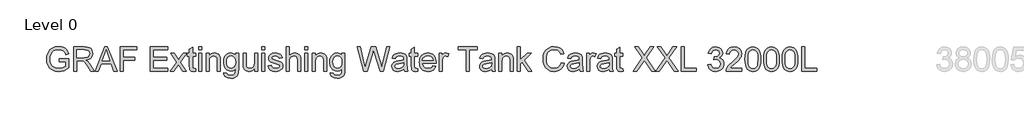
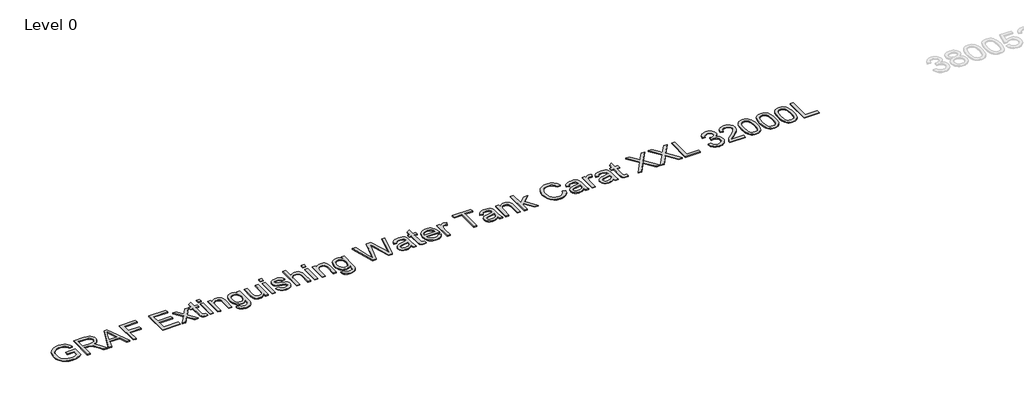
# One storey, part 12 of 37: 1 proxy.
"""IFC4 building model written with IfcOpenShell, lengths in millimetres."""

from ifc_helpers import new_model, si_unit, origin, origin_with_axes, place, context, project, spatial, polyline, outline, extrude, element, save

model = new_model("IFC4")

# Units and contexts
model_context = context("Model", 3, world=origin())
ifc_project = project(units=[si_unit("LENGTHUNIT", "METRE", prefix="MILLI")], contexts=[model_context])

# Site, building, storey
site = spatial("IfcSite", under=ifc_project)
building = spatial("IfcBuilding", under=site)
storey = spatial("IfcBuildingStorey", under=building, Name="Level 0", Elevation=0.0)

# Proxy
placement = place(None, origin())
element("IfcBuildingElementProxy", 1, Name="300mm Arial", ObjectType="300mm Arial", at=placement, inside=storey, context=model_context, shape_type="SweptSolid", body=[
    extrude(outline(polyline([(-17240.9940387, -13583.2545597), (-17240.9940387, -13545.5834434), (-17118.5629107, -13545.5834434), (-17118.5629107, -13658.2289103), (-17148.3153671, -13678.9222726), (-17179.0059225, -13693.7663111), (-17210.5610007, -13702.7058436), (-17242.9070251, -13705.6856877), (-17285.1674693, -13700.949207), (-17323.3628175, -13686.739765), (-17355.0926395, -13663.5540022), (-17377.9565055, -13631.8885595), (-17391.7796715, -13593.9047435), (-17396.3873935, -13551.7638609), (-17391.7980656, -13509.3194757), (-17378.0300819, -13469.8365406), (-17355.6536596, -13436.717964), (-17325.2390156, -13413.3666543), (-17288.1932987, -13399.5158972), (-17245.9236575, -13394.8989782), (-17214.8928112, -13397.5753197), (-17186.9889618, -13405.6043443), (-17163.4904994, -13418.4066377), (-17145.6758138, -13435.4027859), (-17132.4964413, -13457.4113262), (-17122.9039183, -13485.2507962), (-17157.6319786, -13495.0364573), (-17165.3850917, -13475.1800266), (-17174.8120678, -13460.1980323), (-17187.2832674, -13448.9040551), (-17204.169051, -13440.1116754), (-17224.3013932, -13434.4554897), (-17246.5122687, -13432.5700945), (-17272.5123287, -13434.6026425), (-17294.7415982, -13440.7002866), (-17313.1173039, -13450.0996716), (-17327.5566722, -13462.0374423), (-17346.9440533, -13491.0633317), (-17355.7732212, -13519.50061), (-17358.7162772, -13550.2187566), (-17355.175413, -13586.2436009), (-17344.5528204, -13615.8856927), (-17327.1703961, -13638.9334997), (-17303.3500369, -13655.1754898), (-17275.4737787, -13664.804801), (-17245.9236575, -13668.0145714), (-17219.831627, -13665.5957473), (-17194.3833899, -13658.3392749), (-17172.2828791, -13648.3420817), (-17156.234027, -13637.701095), (-17156.234027, -13583.2545597), (-17240.9940387, -13583.2545597)])), origin_with_axes(), (0.0, 0.0, 1.0), 10.0),
    extrude(outline(polyline([(-17057.3473467, -13700.9767982), (-17057.3473467, -13399.6078677), (-16927.4850024, -13399.6078677), (-16892.5821982, -13401.6404158), (-16867.1891434, -13407.7380598), (-16848.6294968, -13418.9952489), (-16834.2269167, -13436.5064318), (-16824.9838815, -13458.2206666), (-16821.9028698, -13482.087011), (-16827.0072325, -13511.7750881), (-16842.3203206, -13536.3863935), (-16853.9200997, -13546.4157764), (-16868.3019865, -13554.4310054), (-16905.4120827, -13564.4190016), (-16884.0013506, -13580.532233), (-16853.467145, -13619.3069952), (-16803.2144645, -13700.9767982), (-16846.9924219, -13700.9767982), (-16886.2086426, -13638.5104354), (-16914.5355562, -13597.1604991), (-16934.4379722, -13577.6259652), (-16952.3538253, -13570.4522663), (-16974.2060158, -13569.1278911), (-17019.6762304, -13569.1278911), (-17019.6762304, -13700.9767982), (-17057.3473467, -13700.9767982)]), holes=[polyline([(-17019.6762304, -13531.4567748), (-16935.3576771, -13531.4567748), (-16911.1418448, -13530.1232026), (-16892.3522719, -13526.1224859), (-16878.2072092, -13519.1879103), (-16867.9249074, -13509.0527613), (-16861.6617165, -13496.7930938), (-16859.5739861, -13483.4849626), (-16863.5563087, -13465.109257), (-16875.5032765, -13450.3020067), (-16896.058683, -13440.5347397), (-16925.8663217, -13437.278984), (-17019.6762304, -13437.278984), (-17019.6762304, -13531.4567748)])]), origin_with_axes(), (0.0, 0.0, 1.0), 10.0),
    extrude(outline(polyline([(-16791.0743586, -13700.9767982), (-16670.7769462, -13399.6078677), (-16638.6976362, -13399.6078677), (-16518.4002238, -13700.9767982), (-16558.2050557, -13700.9767982), (-16592.7123868, -13606.7990074), (-16716.835772, -13606.7990074), (-16751.2695268, -13700.9767982), (-16791.0743586, -13700.9767982)]), holes=[polyline([(-16703.003409, -13569.1278911), (-16606.4711735, -13569.1278911), (-16633.6208647, -13495.0364573), (-16654.7372912, -13437.278984), (-16673.499273, -13488.5617342), (-16703.003409, -13569.1278911)])]), origin_with_axes(), (0.0, 0.0, 1.0), 10.0),
    extrude(outline(polyline([(-16478.1539335, -13700.9767982), (-16478.1539335, -13399.6078677), (-16275.6716834, -13399.6078677), (-16275.6716834, -13437.278984), (-16440.4828172, -13437.278984), (-16440.4828172, -13526.7478853), (-16299.2161311, -13526.7478853), (-16299.2161311, -13564.4190016), (-16440.4828172, -13564.4190016), (-16440.4828172, -13700.9767982), (-16478.1539335, -13700.9767982)])), origin_with_axes(), (0.0, 0.0, 1.0), 10.0),
    extrude(outline(polyline([(-16106.15166, -13700.9767982), (-16106.15166, -13399.6078677), (-15889.5427413, -13399.6078677), (-15889.5427413, -13437.278984), (-16068.4805437, -13437.278984), (-16068.4805437, -13526.7478853), (-15898.9605203, -13526.7478853), (-15898.9605203, -13564.4190016), (-16068.4805437, -13564.4190016), (-16068.4805437, -13663.3056819), (-15884.8338517, -13663.3056819), (-15884.8338517, -13700.9767982), (-16106.15166, -13700.9767982)])), origin_with_axes(), (0.0, 0.0, 1.0), 10.0),
    extrude(outline(polyline([(-15856.5805145, -13700.9767982), (-15776.0879339, -13589.7292828), (-15851.8716249, -13479.6589899), (-15806.5485631, -13479.6589899), (-15769.9810928, -13532.6339972), (-15752.9113682, -13557.6499729), (-15738.122512, -13537.1957339), (-15696.4782702, -13479.6589899), (-15651.1552084, -13479.6589899), (-15730.7648721, -13589.7292828), (-15654.0982643, -13700.9767982), (-15699.4213261, -13700.9767982), (-15745.5537283, -13634.0958515), (-15754.0150142, -13621.8821692), (-15811.2574527, -13700.9767982), (-15856.5805145, -13700.9767982)])), origin_with_axes(), (0.0, 0.0, 1.0), 10.0),
    extrude(outline(polyline([(-15541.0849154, -13669.5596758), (-15536.3760259, -13702.0804442), (-15564.5557867, -13705.6856877), (-15582.6371868, -13704.1221892), (-15596.1200619, -13699.4316938), (-15605.6482056, -13692.2028126), (-15611.8654113, -13683.0241568), (-15615.2867139, -13667.2604133), (-15616.427148, -13640.276269), (-15616.427148, -13517.3301062), (-15644.6804853, -13517.3301062), (-15644.6804853, -13479.6589899), (-15616.427148, -13479.6589899), (-15616.427148, -13425.8746422), (-15578.7560317, -13403.7281461), (-15578.7560317, -13479.6589899), (-15541.0849154, -13479.6589899), (-15541.0849154, -13517.3301062), (-15578.7560317, -13517.3301062), (-15578.7560317, -13639.172623), (-15576.769469, -13658.5967923), (-15570.331534, -13665.4761856), (-15557.4924524, -13668.0145714), (-15541.0849154, -13669.5596758)])), origin_with_axes(), (0.0, 0.0, 1.0), 10.0),
    extrude(outline(polyline([(-15503.4137991, -13437.278984), (-15503.4137991, -13399.6078677), (-15465.7426828, -13399.6078677), (-15465.7426828, -13437.278984), (-15503.4137991, -13437.278984)])), origin_with_axes(), (0.0, 0.0, 1.0), 10.0),
    extrude(outline(polyline([(-15503.4137991, -13700.9767982), (-15503.4137991, -13479.6589899), (-15465.7426828, -13479.6589899), (-15465.7426828, -13700.9767982), (-15503.4137991, -13700.9767982)])), origin_with_axes(), (0.0, 0.0, 1.0), 10.0),
    extrude(outline(polyline([(-15409.2360084, -13700.9767982), (-15409.2360084, -13479.6589899), (-15371.564892, -13479.6589899), (-15371.564892, -13510.5610775), (-15358.4774901, -13494.981275), (-15342.7597318, -13483.8528446), (-15324.4116173, -13477.1757864), (-15303.4331465, -13474.9501003), (-15284.8643028, -13476.7435251), (-15267.8589576, -13482.1237992), (-15253.6771067, -13490.4195382), (-15243.5787459, -13500.9593574), (-15232.2847687, -13528.6608716), (-15230.2982059, -13565.0811892), (-15230.2982059, -13700.9767982), (-15267.9693222, -13700.9767982), (-15267.9693222, -13570.1579607), (-15272.3103297, -13536.8278519), (-15278.3160033, -13526.9042351), (-15287.6510089, -13519.2063044), (-15299.6163708, -13514.2674886), (-15313.5131132, -13512.6212166), (-15335.5768359, -13516.3184307), (-15354.3848029, -13527.4100729), (-15361.9010919, -13536.4645685), (-15367.2698698, -13548.8391991), (-15371.564892, -13583.5488653), (-15371.564892, -13700.9767982), (-15409.2360084, -13700.9767982)])), origin_with_axes(), (0.0, 0.0, 1.0), 10.0),
    extrude(outline(polyline([(-15187.9182001, -13719.8123563), (-15150.2470837, -13724.5212459), (-15146.0900172, -13736.2934697), (-15138.0334015, -13744.3868736), (-15122.1960816, -13750.6776557), (-15101.4659312, -13752.7745831), (-15079.3562233, -13750.4017442), (-15062.9118981, -13743.2832276), (-15051.5075562, -13731.8788858), (-15044.5177983, -13716.6485712), (-15041.9426244, -13672.7234609), (-15054.4782034, -13685.084296), (-15068.4669162, -13693.9134639), (-15083.908763, -13699.2109646), (-15100.8037436, -13700.9767982), (-15121.4580184, -13698.9212575), (-15139.6428852, -13692.7546356), (-15155.3583442, -13682.4769323), (-15168.6043953, -13668.0881478), (-15179.1143241, -13650.8252852), (-15186.621416, -13631.9253477), (-15191.1256712, -13611.3883353), (-15192.6270896, -13589.214248), (-15189.932354, -13558.7996041), (-15181.8481471, -13530.8313754), (-15168.6595776, -13507.1305779), (-15150.6517539, -13489.5182274), (-15128.4408785, -13478.5921321), (-15102.6431536, -13474.9501003), (-15085.0262045, -13477.0102395), (-15069.0371333, -13483.190657), (-15054.6759399, -13493.4913529), (-15041.9426244, -13507.9123271), (-15041.9426244, -13479.6589899), (-15004.2715081, -13479.6589899), (-15004.2715081, -13670.7368982), (-15006.846682, -13714.8551464), (-15014.5722039, -13743.908627), (-15027.8803351, -13763.1764465), (-15047.2033369, -13777.9377116), (-15072.118145, -13787.3187024), (-15102.2016952, -13790.4456994), (-15137.2516523, -13786.0403125), (-15164.851999, -13772.8241518), (-15175.2469646, -13762.9028343), (-15182.55632, -13750.7604292), (-15186.7800651, -13736.3969365), (-15187.9182001, -13719.8123563)]), holes=[polyline([(-15154.9559733, -13586.6390741), (-15150.9368625, -13621.1923905), (-15138.8795301, -13644.9483703), (-15120.7521448, -13658.716354), (-15098.5228752, -13663.3056819), (-15076.4591526, -13658.7439451), (-15058.2397968, -13645.0587349), (-15046.0169175, -13621.6062577), (-15041.9426244, -13587.7427201), (-15046.1364791, -13555.0839959), (-15058.7180433, -13531.5671394), (-15077.2041136, -13517.3576973), (-15099.1114864, -13512.6212166), (-15120.6233861, -13517.2841209), (-15138.6588009, -13531.2728338), (-15150.8816802, -13554.4402024), (-15154.9559733, -13586.6390741)])]), origin_with_axes(), (0.0, 0.0, 1.0), 10.0),
    extrude(outline(polyline([(-14806.4981475, -13700.9767982), (-14806.4981475, -13662.9377999), (-14820.1281754, -13681.6400008), (-14836.0022835, -13694.9987158), (-14854.1204717, -13703.0139447), (-14874.4827402, -13705.6856877), (-14892.8308547, -13703.8094895), (-14909.9097763, -13698.180895), (-14924.23878, -13689.7196091), (-14934.3371408, -13679.3453369), (-14945.5575416, -13651.6070344), (-14947.7648336, -13616.5846685), (-14947.7648336, -13479.6589899), (-14910.0937173, -13479.6589899), (-14910.0937173, -13598.8527563), (-14907.8128489, -13637.2596366), (-14902.3222101, -13650.0711271), (-14892.9136281, -13659.8108029), (-14880.2125022, -13665.9636293), (-14864.8442319, -13668.0145714), (-14848.5930448, -13665.917644), (-14833.3903213, -13659.6268619), (-14820.8547423, -13649.7216392), (-14812.6049886, -13636.78139), (-14808.0248577, -13619.0586749), (-14806.4981475, -13594.8060544), (-14806.4981475, -13479.6589899), (-14768.8270311, -13479.6589899), (-14768.8270311, -13700.9767982), (-14806.4981475, -13700.9767982)])), origin_with_axes(), (0.0, 0.0, 1.0), 10.0),
    extrude(outline(polyline([(-14717.0292462, -13437.278984), (-14717.0292462, -13399.6078677), (-14679.3581299, -13399.6078677), (-14679.3581299, -13437.278984), (-14717.0292462, -13437.278984)])), origin_with_axes(), (0.0, 0.0, 1.0), 10.0),
    extrude(outline(polyline([(-14717.0292462, -13700.9767982), (-14717.0292462, -13479.6589899), (-14679.3581299, -13479.6589899), (-14679.3581299, -13700.9767982), (-14717.0292462, -13700.9767982)])), origin_with_axes(), (0.0, 0.0, 1.0), 10.0),
    extrude(outline(polyline([(-14636.9781241, -13635.0523446), (-14599.3070078, -13630.3434551), (-14593.3657135, -13646.4566865), (-14581.8694012, -13658.3024867), (-14564.7444943, -13665.5865502), (-14541.9174165, -13668.0145714), (-14519.3662502, -13665.7888853), (-14503.5105362, -13659.1118271), (-14494.1295453, -13649.4365307), (-14491.0025484, -13638.2161298), (-14494.1479394, -13628.6144097), (-14503.5841126, -13621.293558), (-14542.3588749, -13610.5514038), (-14599.0862786, -13592.1205158), (-14613.4428734, -13582.8590866), (-14623.8447368, -13570.5994191), (-14630.1631101, -13556.1232626), (-14632.2692345, -13540.2123663), (-14630.5769774, -13525.6166481), (-14625.5002058, -13512.1429701), (-14617.4987724, -13500.324761), (-14607.0325297, -13490.6954497), (-14583.0834118, -13479.5486253), (-14550.673008, -13474.9501003), (-14526.153673, -13476.7987074), (-14504.8349114, -13482.3445284), (-14487.6916104, -13491.0449376), (-14475.6986574, -13502.357309), (-14467.7524063, -13517.118574), (-14462.7492112, -13536.1656643), (-14500.4203275, -13540.8745539), (-14505.1752023, -13529.0195566), (-14514.5837843, -13520.0892211), (-14528.738044, -13514.4882178), (-14547.729952, -13512.6212166), (-14569.3614134, -13514.4054443), (-14583.7823876, -13519.7581274), (-14591.8941856, -13527.4836493), (-14594.5981182, -13536.3863935), (-14590.1099579, -13547.349277), (-14576.0568657, -13555.6634101), (-14543.6096737, -13563.6832376), (-14488.3170098, -13581.4151497), (-14473.7120946, -13589.8948297), (-14462.6388466, -13601.5015067), (-14455.6582857, -13616.2719688), (-14453.3314321, -13634.2430043), (-14456.0629559, -13652.821045), (-14464.2575273, -13670.2954398), (-14477.6024467, -13685.2958281), (-14495.7850143, -13696.4518496), (-14517.7475694, -13703.3772282), (-14542.4324513, -13705.6856877), (-14580.4162673, -13701.2343156), (-14608.1361757, -13687.8801991), (-14626.64064, -13665.7704912), (-14636.9781241, -13635.0523446)])), origin_with_axes(), (0.0, 0.0, 1.0), 10.0),
    extrude(outline(polyline([(-14410.9514262, -13700.9767982), (-14410.9514262, -13399.6078677), (-14373.2803099, -13399.6078677), (-14373.2803099, -13510.4139247), (-14359.4433484, -13494.8985015), (-14343.9049326, -13483.8160564), (-14326.6650626, -13477.1665894), (-14307.7237384, -13474.9501003), (-14284.970237, -13477.3689245), (-14265.4173089, -13484.6253968), (-14250.0214474, -13496.1493003), (-14239.7391457, -13511.3704179), (-14233.9450043, -13532.2845093), (-14232.0136238, -13560.8873344), (-14232.0136238, -13700.9767982), (-14269.6847401, -13700.9767982), (-14269.6847401, -13564.7868836), (-14272.6829784, -13541.2056477), (-14281.6776931, -13525.0556281), (-14296.1722437, -13515.7298195), (-14315.6699895, -13512.6212166), (-14331.5900828, -13514.718144), (-14346.5352889, -13521.0089261), (-14358.914518, -13530.8865577), (-14367.1366806, -13543.7440334), (-14371.7444026, -13560.8321521), (-14373.2803099, -13583.4017125), (-14373.2803099, -13700.9767982), (-14410.9514262, -13700.9767982)])), origin_with_axes(), (0.0, 0.0, 1.0), 10.0),
    extrude(outline(polyline([(-14180.2158389, -13437.278984), (-14180.2158389, -13399.6078677), (-14142.5447226, -13399.6078677), (-14142.5447226, -13437.278984), (-14180.2158389, -13437.278984)])), origin_with_axes(), (0.0, 0.0, 1.0), 10.0),
    extrude(outline(polyline([(-14180.2158389, -13700.9767982), (-14180.2158389, -13479.6589899), (-14142.5447226, -13479.6589899), (-14142.5447226, -13700.9767982), (-14180.2158389, -13700.9767982)])), origin_with_axes(), (0.0, 0.0, 1.0), 10.0),
    extrude(outline(polyline([(-14086.0380481, -13700.9767982), (-14086.0380481, -13479.6589899), (-14048.3669318, -13479.6589899), (-14048.3669318, -13510.5610775), (-14035.2795298, -13494.981275), (-14019.5617716, -13483.8528446), (-14001.2136571, -13477.1757864), (-13980.2351863, -13474.9501003), (-13961.6663426, -13476.7435251), (-13944.6609974, -13482.1237992), (-13930.4791464, -13490.4195382), (-13920.3807857, -13500.9593574), (-13909.0868084, -13528.6608716), (-13907.1002456, -13565.0811892), (-13907.1002456, -13700.9767982), (-13944.771362, -13700.9767982), (-13944.771362, -13570.1579607), (-13949.1123695, -13536.8278519), (-13955.1180431, -13526.9042351), (-13964.4530487, -13519.2063044), (-13976.4184106, -13514.2674886), (-13990.315153, -13512.6212166), (-14012.3788756, -13516.3184307), (-14031.1868426, -13527.4100729), (-14038.7031316, -13536.4645685), (-14044.0719095, -13548.8391991), (-14048.3669318, -13583.5488653), (-14048.3669318, -13700.9767982), (-14086.0380481, -13700.9767982)])), origin_with_axes(), (0.0, 0.0, 1.0), 10.0),
    extrude(outline(polyline([(-13864.7202398, -13719.8123563), (-13827.0491235, -13724.5212459), (-13822.8920569, -13736.2934697), (-13814.8354413, -13744.3868736), (-13798.9981214, -13750.6776557), (-13778.2679709, -13752.7745831), (-13756.158263, -13750.4017442), (-13739.7139378, -13743.2832276), (-13728.309596, -13731.8788858), (-13721.3198381, -13716.6485712), (-13718.7446641, -13672.7234609), (-13731.2802431, -13685.084296), (-13745.268956, -13693.9134639), (-13760.7108027, -13699.2109646), (-13777.6057833, -13700.9767982), (-13798.2600581, -13698.9212575), (-13816.444925, -13692.7546356), (-13832.160384, -13682.4769323), (-13845.4064351, -13668.0881478), (-13855.9163638, -13650.8252852), (-13863.4234558, -13631.9253477), (-13867.9277109, -13611.3883353), (-13869.4291293, -13589.214248), (-13866.7343937, -13558.7996041), (-13858.6501869, -13530.8313754), (-13845.4616174, -13507.1305779), (-13827.4537937, -13489.5182274), (-13805.2429182, -13478.5921321), (-13779.4451933, -13474.9501003), (-13761.8282443, -13477.0102395), (-13745.8391731, -13483.190657), (-13731.4779797, -13493.4913529), (-13718.7446641, -13507.9123271), (-13718.7446641, -13479.6589899), (-13681.0735478, -13479.6589899), (-13681.0735478, -13670.7368982), (-13683.6487218, -13714.8551464), (-13691.3742437, -13743.908627), (-13704.6823748, -13763.1764465), (-13724.0053766, -13777.9377116), (-13748.9201848, -13787.3187024), (-13779.0037349, -13790.4456994), (-13814.053692, -13786.0403125), (-13841.6540387, -13772.8241518), (-13852.0490043, -13762.9028343), (-13859.3583597, -13750.7604292), (-13863.5821049, -13736.3969365), (-13864.7202398, -13719.8123563)]), holes=[polyline([(-13831.758013, -13586.6390741), (-13827.7389022, -13621.1923905), (-13815.6815698, -13644.9483703), (-13797.5541845, -13658.716354), (-13775.324915, -13663.3056819), (-13753.2611923, -13658.7439451), (-13735.0418365, -13645.0587349), (-13722.8189572, -13621.6062577), (-13718.7446641, -13587.7427201), (-13722.9385189, -13555.0839959), (-13735.5200831, -13531.5671394), (-13754.0061534, -13517.3576973), (-13775.9135262, -13512.6212166), (-13797.4254258, -13517.2841209), (-13815.4608406, -13531.2728338), (-13827.6837199, -13554.4402024), (-13831.758013, -13586.6390741)])]), origin_with_axes(), (0.0, 0.0, 1.0), 10.0),
    extrude(outline(polyline([(-13448.2042449, -13700.9767982), (-13530.3890826, -13399.6078677), (-13491.5407439, -13399.6078677), (-13443.8632373, -13597.6755339), (-13429.1479575, -13658.8175215), (-13413.4026081, -13604.7388682), (-13353.6585721, -13399.6078677), (-13297.6669324, -13399.6078677), (-13254.256857, -13548.3057702), (-13235.6604221, -13603.4880695), (-13221.9568178, -13658.8175215), (-13207.6829964, -13599.4413675), (-13159.5640314, -13399.6078677), (-13120.7156928, -13399.6078677), (-13202.9741069, -13700.9767982), (-13243.2203971, -13700.9767982), (-13315.472421, -13468.4753772), (-13325.5523877, -13436.0281853), (-13336.8831531, -13475.0972531), (-13402.7340303, -13700.9767982), (-13448.2042449, -13700.9767982)])), origin_with_axes(), (0.0, 0.0, 1.0), 10.0),
    extrude(outline(polyline([(-12946.4867798, -13672.7234609), (-12964.4854065, -13688.1561106), (-12983.017462, -13698.2544714), (-13002.5060107, -13703.8278836), (-13023.3741168, -13705.6856877), (-13054.8556186, -13701.2159215), (-13078.0781695, -13687.8066228), (-13092.3979762, -13667.4443543), (-13097.1712451, -13642.1156789), (-13095.3686233, -13626.4990883), (-13089.960758, -13612.3172373), (-13081.6190337, -13600.1771315), (-13071.0148352, -13590.685776), (-13044.6376962, -13578.324941), (-13012.0433514, -13572.6595583), (-12973.5261065, -13566.6998699), (-12946.707509, -13559.710112), (-12946.4867798, -13551.3224025), (-12949.0803479, -13534.5101954), (-12956.8610521, -13523.5105237), (-12974.2618705, -13515.3435434), (-12998.505294, -13512.6212166), (-13020.9460957, -13514.4330355), (-13036.6178687, -13519.868492), (-13047.3048406, -13529.9208675), (-13054.7912392, -13545.5834434), (-13092.4623555, -13540.8745539), (-13085.9232531, -13520.2731621), (-13076.1651831, -13504.0863544), (-13062.2776378, -13491.7071252), (-13043.3501092, -13482.5284694), (-13020.2011346, -13476.8446926), (-12993.6492516, -13474.9501003), (-12968.1826205, -13476.6239634), (-12947.995096, -13481.6455527), (-12932.7739785, -13489.1963306), (-12922.2065682, -13498.4577598), (-12915.1984162, -13509.9080869), (-12910.6550735, -13524.0255585), (-12908.8156635, -13556.9877853), (-12908.8156635, -13603.8559515), (-12906.9026772, -13669.3021584), (-12899.3978845, -13700.9767982), (-12937.0690008, -13700.9767982), (-12946.4867798, -13672.7234609)]), holes=[polyline([(-12946.4867798, -13597.3812283), (-13007.2608854, -13608.932723), (-13039.6712892, -13615.0395641), (-13054.3497808, -13624.972378), (-13059.5001288, -13639.4669286), (-13056.6950285, -13650.6689353), (-13048.2797279, -13659.8475911), (-13034.4381678, -13665.9728263), (-13015.3542893, -13668.0145714), (-12995.1207796, -13665.7612942), (-12977.2417146, -13659.0014625), (-12962.747164, -13649.0410575), (-12952.6671974, -13637.1860602), (-12948.1974311, -13624.972378), (-12946.707509, -13608.0498062), (-12946.4867798, -13597.3812283)])]), origin_with_axes(), (0.0, 0.0, 1.0), 10.0),
    extrude(outline(polyline([(-12776.9667565, -13669.5596758), (-12772.2578669, -13702.0804442), (-12800.4376278, -13705.6856877), (-12818.5190278, -13704.1221892), (-12832.0019029, -13699.4316938), (-12841.5300466, -13692.2028126), (-12847.7472523, -13683.0241568), (-12851.1685549, -13667.2604133), (-12852.3089891, -13640.276269), (-12852.3089891, -13517.3301062), (-12880.5623263, -13517.3301062), (-12880.5623263, -13479.6589899), (-12852.3089891, -13479.6589899), (-12852.3089891, -13425.8746422), (-12814.6378728, -13403.7281461), (-12814.6378728, -13479.6589899), (-12776.9667565, -13479.6589899), (-12776.9667565, -13517.3301062), (-12814.6378728, -13517.3301062), (-12814.6378728, -13639.172623), (-12812.65131, -13658.5967923), (-12806.2133751, -13665.4761856), (-12793.3742934, -13668.0145714), (-12776.9667565, -13669.5596758)])), origin_with_axes(), (0.0, 0.0, 1.0), 10.0),
    extrude(outline(polyline([(-12584.3437438, -13635.0523446), (-12547.4083915, -13639.7612342), (-12560.7165226, -13667.5915071), (-12581.9525108, -13688.3952339), (-12610.6381094, -13701.3630743), (-12646.2950718, -13705.6856877), (-12669.669374, -13703.8209859), (-12690.4960935, -13698.2268803), (-12708.7752301, -13688.9033709), (-12724.506784, -13675.8504579), (-12737.1573261, -13659.4314246), (-12746.1934276, -13640.0095545), (-12751.6150885, -13617.5848477), (-12753.4223088, -13592.157304), (-12751.5966944, -13565.8675369), (-12746.1198512, -13542.6955698), (-12736.9917792, -13522.6414025), (-12724.2124784, -13505.7050351), (-12708.5223113, -13492.2497512), (-12690.6616404, -13482.638834), (-12670.6304658, -13476.8722838), (-12648.4287873, -13474.9501003), (-12626.9421796, -13476.8676852), (-12607.5111124, -13482.6204399), (-12590.1355859, -13492.2083644), (-12574.8156001, -13505.6314587), (-12562.3099115, -13522.5310379), (-12553.3772768, -13542.548417), (-12548.017696, -13565.6835959), (-12546.2311691, -13591.9365748), (-12546.4518983, -13602.0901179), (-12715.7511925, -13602.0901179), (-12709.2304841, -13630.2882728), (-12694.0829429, -13651.0184232), (-12672.2215554, -13663.7655344), (-12645.5593078, -13668.0145714), (-12625.509739, -13666.0464027), (-12608.6239555, -13660.1418967), (-12594.901957, -13649.9331713), (-12584.3437438, -13635.0523446)]), holes=[polyline([(-12715.7511925, -13564.4190016), (-12583.9022854, -13564.4190016), (-12588.997451, -13544.5165856), (-12598.9854472, -13530.2795524), (-12620.9480023, -13517.0358006), (-12648.5759401, -13512.6212166), (-12673.9689949, -13516.1436868), (-12694.9658597, -13526.7110971), (-12709.5615779, -13543.1830134), (-12715.7511925, -13564.4190016)])]), origin_with_axes(), (0.0, 0.0, 1.0), 10.0),
    extrude(outline(polyline([(-12508.5600528, -13700.9767982), (-12508.5600528, -13479.6589899), (-12475.597826, -13479.6589899), (-12475.597826, -13512.4004875), (-12463.420932, -13493.4177765), (-12452.2005311, -13482.2341638), (-12440.9433421, -13476.7711162), (-12428.6560834, -13474.9501003), (-12409.8941017, -13477.8563681), (-12390.8378143, -13486.5751714), (-12403.4193786, -13520.3467385), (-12416.6631304, -13514.5525971), (-12429.9068822, -13512.6212166), (-12441.1548742, -13514.4790207), (-12451.2072497, -13520.052433), (-12459.3282448, -13528.918389), (-12464.7820954, -13540.6538247), (-12469.3622262, -13561.6966748), (-12470.8889365, -13584.6525113), (-12470.8889365, -13700.9767982), (-12508.5600528, -13700.9767982)])), origin_with_axes(), (0.0, 0.0, 1.0), 10.0),
    extrude(outline(polyline([(-12169.520006, -13700.9767982), (-12169.520006, -13437.278984), (-12268.4066863, -13437.278984), (-12268.4066863, -13399.6078677), (-12032.9622094, -13399.6078677), (-12032.9622094, -13437.278984), (-12131.8488897, -13437.278984), (-12131.8488897, -13700.9767982), (-12169.520006, -13700.9767982)])), origin_with_axes(), (0.0, 0.0, 1.0), 10.0),
    extrude(outline(polyline([(-11854.024407, -13672.7234609), (-11872.0230336, -13688.1561106), (-11890.5550891, -13698.2544714), (-11910.0436378, -13703.8278836), (-11930.911744, -13705.6856877), (-11962.3932457, -13701.2159215), (-11985.6157966, -13687.8066228), (-11999.9356033, -13667.4443543), (-12004.7088722, -13642.1156789), (-12002.9062504, -13626.4990883), (-11997.4983851, -13612.3172373), (-11989.1566608, -13600.1771315), (-11978.5524623, -13590.685776), (-11952.1753233, -13578.324941), (-11919.5809785, -13572.6595583), (-11881.0637336, -13566.6998699), (-11854.2451362, -13559.710112), (-11854.024407, -13551.3224025), (-11856.617975, -13534.5101954), (-11864.3986792, -13523.5105237), (-11881.7994976, -13515.3435434), (-11906.0429211, -13512.6212166), (-11928.4837228, -13514.4330355), (-11944.1554958, -13519.868492), (-11954.8424677, -13529.9208675), (-11962.3288663, -13545.5834434), (-11999.9999826, -13540.8745539), (-11993.4608802, -13520.2731621), (-11983.7028103, -13504.0863544), (-11969.8152649, -13491.7071252), (-11950.8877363, -13482.5284694), (-11927.7387617, -13476.8446926), (-11901.1868787, -13474.9501003), (-11875.7202476, -13476.6239634), (-11855.5327231, -13481.6455527), (-11840.3116056, -13489.1963306), (-11829.7441953, -13498.4577598), (-11822.7360433, -13509.9080869), (-11818.1927006, -13524.0255585), (-11816.3532907, -13556.9877853), (-11816.3532907, -13603.8559515), (-11814.4403043, -13669.3021584), (-11806.9355116, -13700.9767982), (-11844.6066279, -13700.9767982), (-11854.024407, -13672.7234609)]), holes=[polyline([(-11854.024407, -13597.3812283), (-11914.7985126, -13608.932723), (-11947.2089163, -13615.0395641), (-11961.8874079, -13624.972378), (-11967.0377559, -13639.4669286), (-11964.2326557, -13650.6689353), (-11955.817355, -13659.8475911), (-11941.975795, -13665.9728263), (-11922.8919165, -13668.0145714), (-11902.6584067, -13665.7612942), (-11884.7793418, -13659.0014625), (-11870.2847911, -13649.0410575), (-11860.2048245, -13637.1860602), (-11855.7350582, -13624.972378), (-11854.2451362, -13608.0498062), (-11854.024407, -13597.3812283)])]), origin_with_axes(), (0.0, 0.0, 1.0), 10.0),
    extrude(outline(polyline([(-11764.5555057, -13700.9767982), (-11764.5555057, -13479.6589899), (-11726.8843894, -13479.6589899), (-11726.8843894, -13510.5610775), (-11713.7969875, -13494.981275), (-11698.0792292, -13483.8528446), (-11679.7311147, -13477.1757864), (-11658.7526439, -13474.9501003), (-11640.1838002, -13476.7435251), (-11623.178455, -13482.1237992), (-11608.9966041, -13490.4195382), (-11598.8982433, -13500.9593574), (-11587.6042661, -13528.6608716), (-11585.6177033, -13565.0811892), (-11585.6177033, -13700.9767982), (-11623.2888196, -13700.9767982), (-11623.2888196, -13570.1579607), (-11627.6298271, -13536.8278519), (-11633.6355007, -13526.9042351), (-11642.9705063, -13519.2063044), (-11654.9358682, -13514.2674886), (-11668.8326106, -13512.6212166), (-11690.8963333, -13516.3184307), (-11709.7043003, -13527.4100729), (-11717.2205893, -13536.4645685), (-11722.5893671, -13548.8391991), (-11726.8843894, -13583.5488653), (-11726.8843894, -13700.9767982), (-11764.5555057, -13700.9767982)])), origin_with_axes(), (0.0, 0.0, 1.0), 10.0),
    extrude(outline(polyline([(-11533.8199184, -13700.9767982), (-11533.8199184, -13399.6078677), (-11496.1488021, -13399.6078677), (-11496.1488021, -13561.549522), (-11411.683096, -13479.6589899), (-11359.5910054, -13479.6589899), (-11445.0867811, -13562.5795916), (-11354.8821159, -13700.9767982), (-11398.8808025, -13700.9767982), (-11472.0893196, -13588.7727896), (-11496.1488021, -13612.0965081), (-11496.1488021, -13700.9767982), (-11533.8199184, -13700.9767982)])), origin_with_axes(), (0.0, 0.0, 1.0), 10.0),
    extrude(outline(polyline([(-10987.5887319, -13593.8495612), (-10949.9176156, -13603.5616459), (-10957.3718245, -13626.9888312), (-10967.3000399, -13647.4591649), (-10979.7022617, -13664.9726472), (-10994.5784898, -13679.5292779), (-11011.5930321, -13690.9727072), (-11030.4101962, -13699.1465853), (-11051.029982, -13704.0509121), (-11073.4523896, -13705.6856877), (-11117.1475736, -13700.7376749), (-11151.8480428, -13685.8936364), (-11178.445911, -13661.668607), (-11197.8332922, -13628.5776215), (-11209.6698954, -13589.6741005), (-11213.6154298, -13548.0114646), (-11209.1548606, -13504.0679603), (-11195.773153, -13466.1209325), (-11174.1692828, -13435.3751947), (-11145.0422259, -13413.0355606), (-11110.4981065, -13399.4331238), (-11072.6430492, -13394.8989782), (-11031.3390982, -13400.766696), (-11013.370362, -13408.1013433), (-10997.190452, -13418.3698495), (-10983.0660826, -13431.3009016), (-10971.2639684, -13446.6231867), (-10954.6265052, -13484.4414558), (-10992.2976215, -13493.4177765), (-11005.3574323, -13465.9461885), (-11023.1997091, -13447.1014333), (-11046.045181, -13436.2029292), (-11074.1145772, -13432.5700945), (-11106.4697987, -13436.5984023), (-11133.0492728, -13448.6833259), (-11153.2184032, -13467.5556722), (-11166.3425934, -13491.9462485), (-11173.5438834, -13519.5190041), (-11175.9443135, -13547.9378882), (-11173.102425, -13582.7395249), (-11164.5767598, -13612.8322721), (-11150.045421, -13637.0664986), (-11129.1865119, -13654.292573), (-11104.1797332, -13664.5840718), (-11077.2047859, -13668.0145714), (-11045.7600724, -13663.3424701), (-11019.5576773, -13649.3261661), (-10999.774823, -13626.1128122), (-10987.5887319, -13593.8495612)])), origin_with_axes(), (0.0, 0.0, 1.0), 10.0),
    extrude(outline(polyline([(-10761.5620341, -13672.7234609), (-10779.5606607, -13688.1561106), (-10798.0927162, -13698.2544714), (-10817.5812649, -13703.8278836), (-10838.4493711, -13705.6856877), (-10869.9308728, -13701.2159215), (-10893.1534238, -13687.8066228), (-10907.4732304, -13667.4443543), (-10912.2464993, -13642.1156789), (-10910.4438775, -13626.4990883), (-10905.0360122, -13612.3172373), (-10896.694288, -13600.1771315), (-10886.0900895, -13590.685776), (-10859.7129504, -13578.324941), (-10827.1186056, -13572.6595583), (-10788.6013607, -13566.6998699), (-10761.7827633, -13559.710112), (-10761.5620341, -13551.3224025), (-10764.1556022, -13534.5101954), (-10771.9363064, -13523.5105237), (-10789.3371247, -13515.3435434), (-10813.5805482, -13512.6212166), (-10836.0213499, -13514.4330355), (-10851.6931229, -13519.868492), (-10862.3800949, -13529.9208675), (-10869.8664935, -13545.5834434), (-10907.5376098, -13540.8745539), (-10900.9985073, -13520.2731621), (-10891.2404374, -13504.0863544), (-10877.3528921, -13491.7071252), (-10858.4253634, -13482.5284694), (-10835.2763889, -13476.8446926), (-10808.7245059, -13474.9501003), (-10783.2578748, -13476.6239634), (-10763.0703503, -13481.6455527), (-10747.8492327, -13489.1963306), (-10737.2818224, -13498.4577598), (-10730.2736704, -13509.9080869), (-10725.7303278, -13524.0255585), (-10723.8909178, -13556.9877853), (-10723.8909178, -13603.8559515), (-10721.9779314, -13669.3021584), (-10714.4731387, -13700.9767982), (-10752.144255, -13700.9767982), (-10761.5620341, -13672.7234609)]), holes=[polyline([(-10761.5620341, -13597.3812283), (-10822.3361397, -13608.932723), (-10854.7465435, -13615.0395641), (-10869.4250351, -13624.972378), (-10874.575383, -13639.4669286), (-10871.7702828, -13650.6689353), (-10863.3549822, -13659.8475911), (-10849.5134221, -13665.9728263), (-10830.4295436, -13668.0145714), (-10810.1960338, -13665.7612942), (-10792.3169689, -13659.0014625), (-10777.8224183, -13649.0410575), (-10767.7424516, -13637.1860602), (-10763.2726854, -13624.972378), (-10761.7827633, -13608.0498062), (-10761.5620341, -13597.3812283)])]), origin_with_axes(), (0.0, 0.0, 1.0), 10.0),
    extrude(outline(polyline([(-10672.0931329, -13700.9767982), (-10672.0931329, -13479.6589899), (-10639.1309061, -13479.6589899), (-10639.1309061, -13512.4004875), (-10626.9540121, -13493.4177765), (-10615.7336112, -13482.2341638), (-10604.4764221, -13476.7711162), (-10592.1891635, -13474.9501003), (-10573.4271818, -13477.8563681), (-10554.3708944, -13486.5751714), (-10566.9524586, -13520.3467385), (-10580.1962105, -13514.5525971), (-10593.4399623, -13512.6212166), (-10604.6879543, -13514.4790207), (-10614.7403298, -13520.052433), (-10622.8613249, -13528.918389), (-10628.3151754, -13540.6538247), (-10632.8953063, -13561.6966748), (-10634.4220166, -13584.6525113), (-10634.4220166, -13700.9767982), (-10672.0931329, -13700.9767982)])), origin_with_axes(), (0.0, 0.0, 1.0), 10.0),
    extrude(outline(polyline([(-10389.5597606, -13672.7234609), (-10407.5583872, -13688.1561106), (-10426.0904427, -13698.2544714), (-10445.5789914, -13703.8278836), (-10466.4470976, -13705.6856877), (-10497.9285993, -13701.2159215), (-10521.1511502, -13687.8066228), (-10535.4709569, -13667.4443543), (-10540.2442258, -13642.1156789), (-10538.441604, -13626.4990883), (-10533.0337387, -13612.3172373), (-10524.6920144, -13600.1771315), (-10514.0878159, -13590.685776), (-10487.7106769, -13578.324941), (-10455.1163321, -13572.6595583), (-10416.5990872, -13566.6998699), (-10389.7804898, -13559.710112), (-10389.5597606, -13551.3224025), (-10392.1533286, -13534.5101954), (-10399.9340328, -13523.5105237), (-10417.3348512, -13515.3435434), (-10441.5782747, -13512.6212166), (-10464.0190764, -13514.4330355), (-10479.6908494, -13519.868492), (-10490.3778213, -13529.9208675), (-10497.8642199, -13545.5834434), (-10535.5353362, -13540.8745539), (-10528.9962338, -13520.2731621), (-10519.2381639, -13504.0863544), (-10505.3506185, -13491.7071252), (-10486.4230899, -13482.5284694), (-10463.2741153, -13476.8446926), (-10436.7222323, -13474.9501003), (-10411.2556012, -13476.6239634), (-10391.0680767, -13481.6455527), (-10375.8469592, -13489.1963306), (-10365.2795489, -13498.4577598), (-10358.2713969, -13509.9080869), (-10353.7280542, -13524.0255585), (-10351.8886443, -13556.9877853), (-10351.8886443, -13603.8559515), (-10349.9756579, -13669.3021584), (-10342.4708652, -13700.9767982), (-10380.1419815, -13700.9767982), (-10389.5597606, -13672.7234609)]), holes=[polyline([(-10389.5597606, -13597.3812283), (-10450.3338662, -13608.932723), (-10482.7442699, -13615.0395641), (-10497.4227615, -13624.972378), (-10502.5731095, -13639.4669286), (-10499.7680093, -13650.6689353), (-10491.3527086, -13659.8475911), (-10477.5111486, -13665.9728263), (-10458.4272701, -13668.0145714), (-10438.1937603, -13665.7612942), (-10420.3146954, -13659.0014625), (-10405.8201448, -13649.0410575), (-10395.7401781, -13637.1860602), (-10391.2704118, -13624.972378), (-10389.7804898, -13608.0498062), (-10389.5597606, -13597.3812283)])]), origin_with_axes(), (0.0, 0.0, 1.0), 10.0),
    extrude(outline(polyline([(-10220.0397372, -13669.5596758), (-10215.3308476, -13702.0804442), (-10243.5106085, -13705.6856877), (-10261.5920085, -13704.1221892), (-10275.0748837, -13699.4316938), (-10284.6030273, -13692.2028126), (-10290.8202331, -13683.0241568), (-10294.2415356, -13667.2604133), (-10295.3819698, -13640.276269), (-10295.3819698, -13517.3301062), (-10323.635307, -13517.3301062), (-10323.635307, -13479.6589899), (-10295.3819698, -13479.6589899), (-10295.3819698, -13425.8746422), (-10257.7108535, -13403.7281461), (-10257.7108535, -13479.6589899), (-10220.0397372, -13479.6589899), (-10220.0397372, -13517.3301062), (-10257.7108535, -13517.3301062), (-10257.7108535, -13639.172623), (-10255.7242907, -13658.5967923), (-10249.2863558, -13665.4761856), (-10236.4472742, -13668.0145714), (-10220.0397372, -13669.5596758)])), origin_with_axes(), (0.0, 0.0, 1.0), 10.0),
    extrude(outline(polyline([(-10092.8997197, -13700.9767982), (-9976.7225856, -13536.7542755), (-10074.0641615, -13399.6078677), (-10028.8882525, -13399.6078677), (-9974.0738352, -13476.7895103), (-9955.6061591, -13506.8822575), (-9933.9746977, -13476.2744755), (-9879.7488916, -13399.6078677), (-9833.910795, -13399.6078677), (-9931.252371, -13537.1957339), (-9815.0752369, -13700.9767982), (-9860.2511459, -13700.9767982), (-9937.6535177, -13591.789422), (-9953.7667491, -13569.1278911), (-9971.4986612, -13593.996714), (-10047.0616231, -13700.9767982), (-10092.8997197, -13700.9767982)])), origin_with_axes(), (0.0, 0.0, 1.0), 10.0),
    extrude(outline(polyline([(-9810.3663474, -13700.9767982), (-9694.1892133, -13536.7542755), (-9791.5307892, -13399.6078677), (-9746.3548802, -13399.6078677), (-9691.5404629, -13476.7895103), (-9673.0727868, -13506.8822575), (-9651.4413254, -13476.2744755), (-9597.2155194, -13399.6078677), (-9551.3774228, -13399.6078677), (-9648.7189987, -13537.1957339), (-9532.5418646, -13700.9767982), (-9577.7177736, -13700.9767982), (-9655.1201454, -13591.789422), (-9671.2333768, -13569.1278911), (-9688.9652889, -13593.996714), (-9764.5282508, -13700.9767982), (-9810.3663474, -13700.9767982)])), origin_with_axes(), (0.0, 0.0, 1.0), 10.0),
    extrude(outline(polyline([(-9494.8707483, -13700.9767982), (-9494.8707483, -13399.6078677), (-9457.199632, -13399.6078677), (-9457.199632, -13663.3056819), (-9306.5151668, -13663.3056819), (-9306.5151668, -13700.9767982), (-9494.8707483, -13700.9767982)])), origin_with_axes(), (0.0, 0.0, 1.0), 10.0),
    extrude(outline(polyline([(-9160.5395911, -13620.925676), (-9122.8684748, -13616.2167865), (-9114.43478, -13639.8899929), (-9102.083142, -13655.8744656), (-9085.2065555, -13664.979545), (-9063.1980152, -13668.0145714), (-9037.3726991, -13663.8391108), (-9017.433495, -13651.3127288), (-9004.6863838, -13632.6243235), (-9000.4373468, -13609.9627926), (-9004.6495956, -13588.4508929), (-9017.2863422, -13571.0040893), (-9036.4162059, -13559.4433976), (-9060.1078064, -13555.5898337), (-9086.5217336, -13559.710112), (-9082.3278789, -13522.0389957), (-9076.2946142, -13522.4804541), (-9053.7250538, -13519.7765215), (-9033.5467263, -13511.6647235), (-9019.3096931, -13497.942725), (-9014.5640154, -13478.4081911), (-9018.003712, -13462.1386099), (-9028.322802, -13448.9408433), (-9044.0681514, -13440.1944488), (-9063.7866263, -13437.278984), (-9083.5418895, -13440.22204), (-9099.6919091, -13449.0512079), (-9111.482527, -13463.7664877), (-9118.1595852, -13484.3678794), (-9155.8307015, -13479.6589899), (-9144.7390594, -13445.8322404), (-9125.0021903, -13420.5771415), (-9097.9996519, -13404.8501862), (-9065.1110015, -13399.6078677), (-9041.4285981, -13402.1922387), (-9019.6775751, -13409.9453518), (-9001.3386577, -13422.1774281), (-8987.8925707, -13438.198689), (-8979.642817, -13456.6571681), (-8976.8928991, -13476.2008991), (-8979.5048613, -13494.4110579), (-8987.3407477, -13510.9289595), (-9000.290194, -13525.0004458), (-9018.2428353, -13535.8713587), (-8994.6615995, -13545.3995024), (-8977.1872047, -13561.6230984), (-8966.371474, -13583.6592299), (-8962.7662305, -13610.6249802), (-8964.5688522, -13629.7364498), (-8969.9767176, -13647.3396033), (-8978.9898265, -13663.4344406), (-8991.6081789, -13678.0209617), (-9006.9810478, -13690.1242793), (-9024.257706, -13698.7695062), (-9043.4381535, -13703.9566423), (-9064.5223903, -13705.6856877), (-9083.5786777, -13704.2095612), (-9100.9427079, -13699.7811817), (-9116.6144809, -13692.4005492), (-9130.5939967, -13682.0676636), (-9142.3156367, -13669.3895304), (-9151.2137825, -13654.9731547), (-9157.2884339, -13638.8185366), (-9160.5395911, -13620.925676)])), origin_with_axes(), (0.0, 0.0, 1.0), 10.0),
    extrude(outline(polyline([(-8736.7395326, -13663.3056819), (-8736.7395326, -13700.9767982), (-8934.5128932, -13700.9767982), (-8930.4661913, -13675.0043293), (-8921.1771709, -13654.7064402), (-8907.5839312, -13635.0155564), (-8887.9206386, -13614.4049677), (-8860.4214594, -13591.3479636), (-8819.7704989, -13555.2403458), (-8795.3799227, -13528.5872952), (-8783.1846345, -13506.9558339), (-8779.1195385, -13485.9129838), (-8782.9547083, -13467.0498345), (-8794.4602177, -13451.3688645), (-8812.1461446, -13440.8014541), (-8834.522567, -13437.278984), (-8858.0210294, -13440.7186807), (-8876.2771734, -13451.0377707), (-8888.0585943, -13467.4269135), (-8892.1328874, -13489.076769), (-8929.8040037, -13484.3678794), (-8920.6713332, -13447.9291678), (-8912.1249746, -13433.3932305), (-8900.9252671, -13421.3129054), (-8887.3297281, -13411.8169514), (-8871.595875, -13405.0341272), (-8833.7132266, -13399.6078677), (-8813.5234028, -13401.1161839), (-8795.5546666, -13405.6411325), (-8779.807018, -13413.1827134), (-8766.2804568, -13423.7409266), (-8755.4164417, -13436.534023), (-8747.6564308, -13450.7802533), (-8743.0004243, -13466.4796174), (-8741.4484222, -13483.6321154), (-8743.1222852, -13501.6491361), (-8748.1438745, -13519.3534572), (-8757.0558158, -13537.3612808), (-8770.4007352, -13556.2888095), (-8791.6735116, -13578.885961), (-8824.3690239, -13607.9026534), (-8867.7055229, -13644.1390299), (-8884.7016711, -13663.3056819), (-8736.7395326, -13663.3056819)])), origin_with_axes(), (0.0, 0.0, 1.0), 10.0),
    extrude(outline(polyline([(-8699.0684163, -13552.7203541), (-8696.3001043, -13504.4818275), (-8687.9951683, -13466.0105679), (-8674.2363817, -13436.717964), (-8655.1065179, -13416.0154047), (-8630.4676213, -13403.709752), (-8600.181736, -13399.6078677), (-8576.9683821, -13402.0358889), (-8556.1830494, -13409.3199524), (-8538.8006251, -13421.1749497), (-8525.7959966, -13437.3157722), (-8515.9735473, -13457.6044643), (-8508.1376608, -13481.9030701), (-8503.005707, -13512.7591724), (-8501.2950557, -13552.7203541), (-8504.0357766, -13600.6829692), (-8512.2579392, -13639.0622584), (-8525.9339523, -13668.3824534), (-8545.0362249, -13689.1677861), (-8569.7303039, -13701.5562123), (-8600.181736, -13705.6856877), (-8620.9302806, -13703.892263), (-8639.3243803, -13698.5119888), (-8655.3640353, -13689.5448652), (-8669.0492455, -13676.9908921), (-8682.1826327, -13654.2971715), (-8691.5636236, -13626.0208417), (-8697.1922182, -13592.1619025), (-8699.0684163, -13552.7203541)]), holes=[polyline([(-8661.3973, -13552.6467777), (-8656.9827161, -13611.9033701), (-8651.4644862, -13632.1713688), (-8643.7389643, -13646.1991691), (-8624.0204893, -13662.5607208), (-8600.181736, -13668.0145714), (-8576.3429827, -13662.5423267), (-8556.6245078, -13646.1255927), (-8548.8989859, -13632.0747997), (-8543.380756, -13611.8113996), (-8538.966172, -13552.6467777), (-8543.2336032, -13494.7237576), (-8548.5678921, -13474.5224375), (-8556.0358966, -13460.1612441), (-8575.7175833, -13442.9995491), (-8600.6231944, -13437.278984), (-8624.2044303, -13442.3189674), (-8643.1503531, -13457.4389174), (-8651.1333924, -13473.0739022), (-8656.8355633, -13494.1535405), (-8661.3973, -13552.6467777)])]), origin_with_axes(), (0.0, 0.0, 1.0), 10.0),
    extrude(outline(polyline([(-8468.332829, -13552.7203541), (-8465.5645169, -13504.4818275), (-8457.2595809, -13466.0105679), (-8443.5007943, -13436.717964), (-8424.3709305, -13416.0154047), (-8399.7320339, -13403.709752), (-8369.4461486, -13399.6078677), (-8346.2327948, -13402.0358889), (-8325.447462, -13409.3199524), (-8308.0650378, -13421.1749497), (-8295.0604092, -13437.3157722), (-8285.23796, -13457.6044643), (-8277.4020735, -13481.9030701), (-8272.2701196, -13512.7591724), (-8270.5594683, -13552.7203541), (-8273.3001892, -13600.6829692), (-8281.5223518, -13639.0622584), (-8295.198365, -13668.3824534), (-8314.3006376, -13689.1677861), (-8338.9947165, -13701.5562123), (-8369.4461486, -13705.6856877), (-8390.1946932, -13703.892263), (-8408.5887929, -13698.5119888), (-8424.6284479, -13689.5448652), (-8438.3136581, -13676.9908921), (-8451.4470454, -13654.2971715), (-8460.8280363, -13626.0208417), (-8466.4566308, -13592.1619025), (-8468.332829, -13552.7203541)]), holes=[polyline([(-8430.6617126, -13552.6467777), (-8426.2471287, -13611.9033701), (-8420.7288988, -13632.1713688), (-8413.0033769, -13646.1991691), (-8393.2849019, -13662.5607208), (-8369.4461486, -13668.0145714), (-8345.6073954, -13662.5423267), (-8325.8889204, -13646.1255927), (-8318.1633985, -13632.0747997), (-8312.6451686, -13611.8113996), (-8308.2305847, -13552.6467777), (-8312.4980158, -13494.7237576), (-8317.8323047, -13474.5224375), (-8325.3003092, -13460.1612441), (-8344.981996, -13442.9995491), (-8369.887607, -13437.278984), (-8393.4688429, -13442.3189674), (-8412.4147657, -13457.4389174), (-8420.397805, -13473.0739022), (-8426.0999759, -13494.1535405), (-8430.6617126, -13552.6467777)])]), origin_with_axes(), (0.0, 0.0, 1.0), 10.0),
    extrude(outline(polyline([(-8237.5972416, -13552.7203541), (-8234.8289296, -13504.4818275), (-8226.5239935, -13466.0105679), (-8212.7652069, -13436.717964), (-8193.6353432, -13416.0154047), (-8168.9964465, -13403.709752), (-8138.7105613, -13399.6078677), (-8115.4972074, -13402.0358889), (-8094.7118747, -13409.3199524), (-8077.3294504, -13421.1749497), (-8064.3248218, -13437.3157722), (-8054.5023726, -13457.6044643), (-8046.6664861, -13481.9030701), (-8041.5345322, -13512.7591724), (-8039.823881, -13552.7203541), (-8042.5646018, -13600.6829692), (-8050.7867644, -13639.0622584), (-8064.4627776, -13668.3824534), (-8083.5650502, -13689.1677861), (-8108.2591291, -13701.5562123), (-8138.7105613, -13705.6856877), (-8159.4591058, -13703.892263), (-8177.8532056, -13698.5119888), (-8193.8928606, -13689.5448652), (-8207.5780708, -13676.9908921), (-8220.711458, -13654.2971715), (-8230.0924489, -13626.0208417), (-8235.7210434, -13592.1619025), (-8237.5972416, -13552.7203541)]), holes=[polyline([(-8199.9261253, -13552.6467777), (-8195.5115413, -13611.9033701), (-8189.9933114, -13632.1713688), (-8182.2677895, -13646.1991691), (-8162.5493146, -13662.5607208), (-8138.7105613, -13668.0145714), (-8114.871808, -13662.5423267), (-8095.153333, -13646.1255927), (-8087.4278111, -13632.0747997), (-8081.9095812, -13611.8113996), (-8077.4949973, -13552.6467777), (-8081.7624284, -13494.7237576), (-8087.0967174, -13474.5224375), (-8094.5647219, -13460.1612441), (-8114.2464086, -13442.9995491), (-8139.1520197, -13437.278984), (-8162.7332556, -13442.3189674), (-8181.6791783, -13457.4389174), (-8189.6622176, -13473.0739022), (-8195.3643885, -13494.1535405), (-8199.9261253, -13552.6467777)])]), origin_with_axes(), (0.0, 0.0, 1.0), 10.0),
    extrude(outline(polyline([(-7992.7349856, -13700.9767982), (-7992.7349856, -13399.6078677), (-7955.0638693, -13399.6078677), (-7955.0638693, -13663.3056819), (-7804.3794041, -13663.3056819), (-7804.3794041, -13700.9767982), (-7992.7349856, -13700.9767982)])), origin_with_axes(), (0.0, 0.0, 1.0), 10.0),
])

save(model, "model.ifc")
